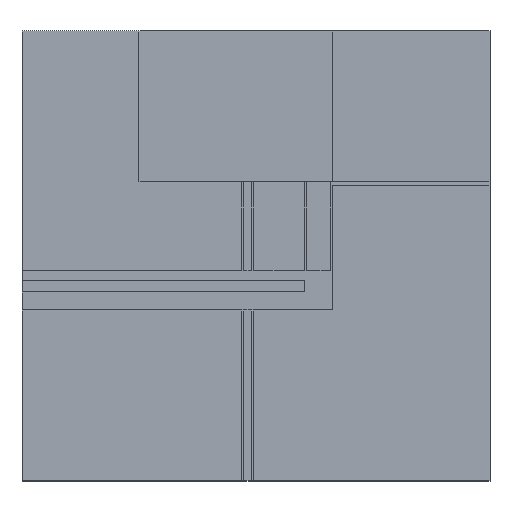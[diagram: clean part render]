
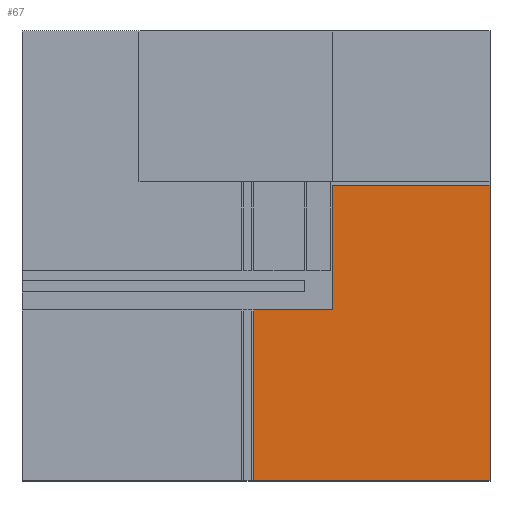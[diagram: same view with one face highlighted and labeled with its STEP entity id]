
A CAD part, top view. The second image highlights one B-rep face of the part: STEP entity #67.
In plain terms, the highlighted planar face has unit normal (0, 0, 1).
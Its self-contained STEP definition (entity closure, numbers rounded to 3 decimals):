
#67=ADVANCED_FACE('',(#169),#1493,.T.);
#169=FACE_OUTER_BOUND('',#271,.T.);
#271=EDGE_LOOP('',(#476,#477,#478,#479,#480,#481,#482,#483));
#476=ORIENTED_EDGE('',*,*,#877,.T.);
#477=ORIENTED_EDGE('',*,*,#879,.T.);
#478=ORIENTED_EDGE('',*,*,#881,.T.);
#479=ORIENTED_EDGE('',*,*,#883,.T.);
#480=ORIENTED_EDGE('',*,*,#885,.T.);
#481=ORIENTED_EDGE('',*,*,#887,.T.);
#482=ORIENTED_EDGE('',*,*,#889,.T.);
#483=ORIENTED_EDGE('',*,*,#891,.T.);
#877=EDGE_CURVE('',#1340,#1341,#1117,.T.);
#879=EDGE_CURVE('',#1341,#1342,#1119,.T.);
#881=EDGE_CURVE('',#1342,#1343,#1121,.T.);
#883=EDGE_CURVE('',#1343,#1344,#1123,.T.);
#885=EDGE_CURVE('',#1344,#1345,#1125,.T.);
#887=EDGE_CURVE('',#1345,#1346,#1127,.T.);
#889=EDGE_CURVE('',#1346,#1347,#1129,.T.);
#891=EDGE_CURVE('',#1347,#1340,#1131,.T.);
#1117=B_SPLINE_CURVE_WITH_KNOTS('',1,(#2056,#2057),.UNSPECIFIED.,.F.,.F.,
(2,2),(-225.,0.),.UNSPECIFIED.);
#1119=B_SPLINE_CURVE_WITH_KNOTS('',1,(#2060,#2061),.UNSPECIFIED.,.F.,.F.,
(2,2),(-760.,0.),.UNSPECIFIED.);
#1121=B_SPLINE_CURVE_WITH_KNOTS('',1,(#2064,#2065),.UNSPECIFIED.,.F.,.F.,
(2,2),(1030.,2080.),.UNSPECIFIED.);
#1123=B_SPLINE_CURVE_WITH_KNOTS('',1,(#2068,#2069),.UNSPECIFIED.,.F.,.F.,
(2,2),(0.,1315.),.UNSPECIFIED.);
#1125=B_SPLINE_CURVE_WITH_KNOTS('',1,(#2072,#2073),.UNSPECIFIED.,.F.,.F.,
(2,2),(-700.,0.),.UNSPECIFIED.);
#1127=B_SPLINE_CURVE_WITH_KNOTS('',1,(#2076,#2077),.UNSPECIFIED.,.F.,.F.,
(2,2),(-380.,0.),.UNSPECIFIED.);
#1129=B_SPLINE_CURVE_WITH_KNOTS('',1,(#2080,#2081),.UNSPECIFIED.,.F.,.F.,
(2,2),(-175.,0.),.UNSPECIFIED.);
#1131=B_SPLINE_CURVE_WITH_KNOTS('',1,(#2084,#2085),.UNSPECIFIED.,.F.,.F.,
(2,2),(-125.,0.),.UNSPECIFIED.);
#1340=VERTEX_POINT('',#2030);
#1341=VERTEX_POINT('',#2031);
#1342=VERTEX_POINT('',#2032);
#1343=VERTEX_POINT('',#2033);
#1344=VERTEX_POINT('',#2034);
#1345=VERTEX_POINT('',#2035);
#1346=VERTEX_POINT('',#2036);
#1347=VERTEX_POINT('',#2037);
#1493=PLANE('',#1683);
#1683=AXIS2_PLACEMENT_3D('',#2021,#1788,$);
#1788=DIRECTION('',(0.,0.,1.));
#2021=CARTESIAN_POINT('',(0.,0.,12.));
#2030=CARTESIAN_POINT('',(1255.,760.,12.));
#2031=CARTESIAN_POINT('',(1030.,760.,12.));
#2032=CARTESIAN_POINT('',(1030.,0.,12.));
#2033=CARTESIAN_POINT('',(2080.,0.,12.));
#2034=CARTESIAN_POINT('',(2080.,1315.,12.));
#2035=CARTESIAN_POINT('',(1380.,1315.,12.));
#2036=CARTESIAN_POINT('',(1380.,935.,12.));
#2037=CARTESIAN_POINT('',(1380.,760.,12.));
#2056=CARTESIAN_POINT('',(1255.,760.,12.));
#2057=CARTESIAN_POINT('',(1030.,760.,12.));
#2060=CARTESIAN_POINT('',(1030.,760.,12.));
#2061=CARTESIAN_POINT('',(1030.,0.,12.));
#2064=CARTESIAN_POINT('',(1030.,0.,12.));
#2065=CARTESIAN_POINT('',(2080.,0.,12.));
#2068=CARTESIAN_POINT('',(2080.,0.,12.));
#2069=CARTESIAN_POINT('',(2080.,1315.,12.));
#2072=CARTESIAN_POINT('',(2080.,1315.,12.));
#2073=CARTESIAN_POINT('',(1380.,1315.,12.));
#2076=CARTESIAN_POINT('',(1380.,1315.,12.));
#2077=CARTESIAN_POINT('',(1380.,935.,12.));
#2080=CARTESIAN_POINT('',(1380.,935.,12.));
#2081=CARTESIAN_POINT('',(1380.,760.,12.));
#2084=CARTESIAN_POINT('',(1380.,760.,12.));
#2085=CARTESIAN_POINT('',(1255.,760.,12.));
